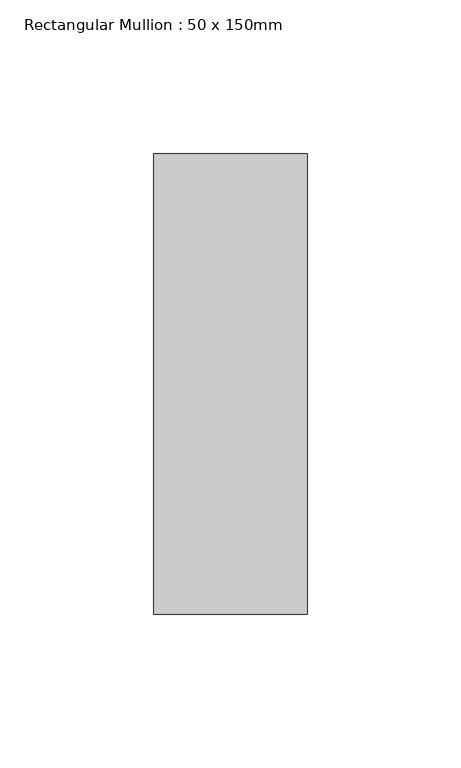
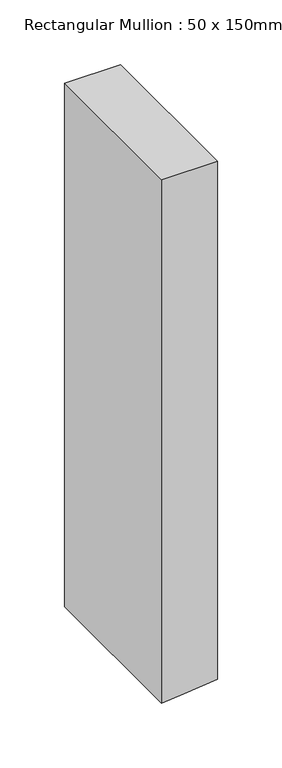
"""IFC4 building model written with IfcOpenShell, lengths in millimetres: member geometry, Rectangular Mullion : 50 x 150mm."""

from ifc_helpers import new_model, si_unit, frame, origin, place, context, project, spatial, polyline, outline, extrude, source, transform, mapped, element, save


def rectangular_mullion_50_x_150mm_3b9d323f(model_context):
    return source(origin(), model_context, "Body", "SweptSolid", [
        extrude(outline(polyline([(0.0, 25.0), (0.0, -25.0), (-494.4081391, -25.0), (-492.3973719, -5.0022633), (-489.3806523, 25.0), (0.0, 25.0)])), frame((0.0, -75.0, 0.0), z_axis=(0.0, 1.0, 0.0), x_axis=(0.0, 0.0, 1.0)), (0.0, 0.0, 1.0), 150.0),
    ])


if __name__ == "__main__":
    model = new_model("IFC4")
    model_context = context("Model", 3, world=origin())
    ifc_project = project(units=[si_unit("LENGTHUNIT", "METRE", prefix="MILLI")], contexts=[model_context])
    site = spatial("IfcSite", under=ifc_project)
    building = spatial("IfcBuilding", under=site)
    placement = place(None, origin())
    rectangular_mullion_50_x_150mm_shape = rectangular_mullion_50_x_150mm_3b9d323f(model_context)
    element("IfcMember", 1, ObjectType="Rectangular Mullion : 50 x 150mm", at=placement, inside=building, context=model_context, shape_type="MappedRepresentation", body=[
        mapped(rectangular_mullion_50_x_150mm_shape, transform((0.0, 0.0, 0.0), x_axis=(1.0, 0.0, 0.0), y_axis=(0.0, 1.0, 0.0), z_axis=(0.0, 0.0, 1.0))),
    ])
    save(model, "model.ifc")
